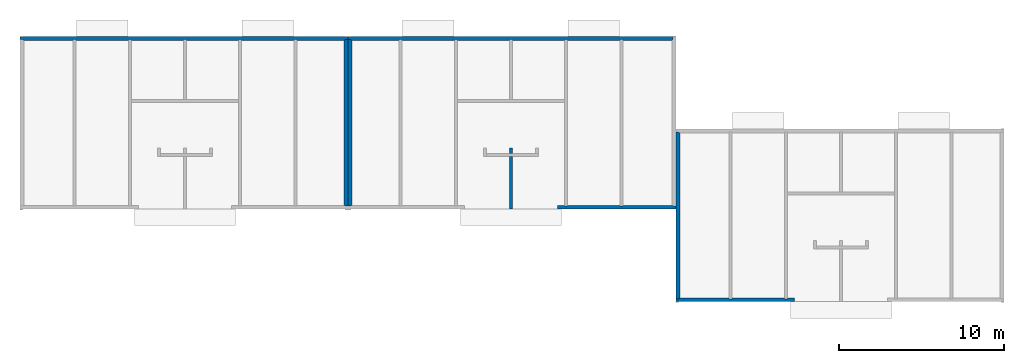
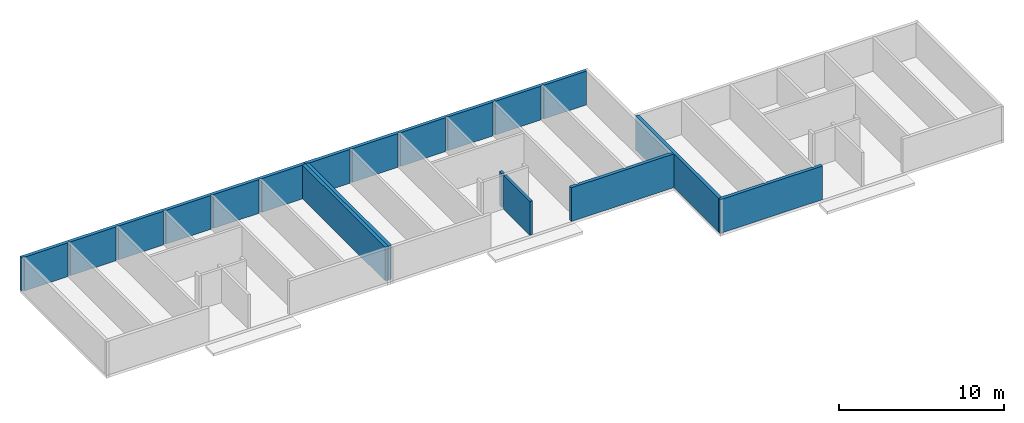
# One storey, part 9 of 10: 9 walls.
"""IFC2X3 building model written with IfcOpenShell, lengths in metres."""

import ifcopenshell
import ifcopenshell.guid

model = None  # the IFC model being written
_history = None  # IfcOwnerHistory: only IFC2X3 demands one
_inside = {}  # id of a spatial element -> (the spatial element, [elements in it])
_under = {}  # id of a project, library or spatial element -> (it, [spatial elements below it])
_declared = {}  # id of a project -> (the project, [libraries it declares])
_typed = {}  # id of a type object -> (the type object, [elements of that type])
_made_of = {}  # id of a material, layer set ... -> (it, [elements and type objects made of it])


def new_model(schema):
    """Start an empty IFC model of exactly this schema.

    Asked for "IFC4X3", IfcOpenShell would pick the latest addendum, in which some entities
    have other attributes; the version numbers below select the first issue.
    IFC2X3 requires an IfcOwnerHistory on every rooted entity: one is made here for all.
    """
    global model, _history
    if schema == "IFC4X3":
        model = ifcopenshell.file(schema_version=(4, 3, 0, 0))
    else:
        model = ifcopenshell.file(schema=schema)
    _inside.clear()
    _under.clear()
    _declared.clear()
    _typed.clear()
    _made_of.clear()
    _history = None
    if model.schema == "IFC2X3":
        org = make("IfcOrganization", Name="unknown")
        user = make(
            "IfcPersonAndOrganization",
            ThePerson=make("IfcPerson", FamilyName="unknown"),
            TheOrganization=org,
        )
        app = make(
            "IfcApplication",
            ApplicationDeveloper=org,
            Version="unknown",
            ApplicationFullName="unknown",
            ApplicationIdentifier="unknown",
        )
        _history = make(
            "IfcOwnerHistory",
            OwningUser=user,
            OwningApplication=app,
            ChangeAction="ADDED",
            CreationDate=0,
        )
    return model


def make(cls, **values):
    """One entity of the class cls with the attributes given. An attribute that is None is left unset."""
    return model.create_entity(
        cls, **{name: value for name, value in values.items() if value is not None}
    )


def rooted(cls, **values):
    """An entity with a GlobalId (a new one), such as an element, a storey or a relation."""
    return make(cls, GlobalId=ifcopenshell.guid.new(), OwnerHistory=_history, **values)


def si_unit(unit_type, name, prefix=None):
    """IfcSIUnit, for example si_unit("LENGTHUNIT", "METRE", prefix="MILLI")."""
    return make("IfcSIUnit", UnitType=unit_type, Prefix=prefix, Name=name)


def assignment(units):
    """IfcUnitAssignment: the units of a project."""
    return None if units is None else make("IfcUnitAssignment", Units=units)


def point(xyz):
    """IfcCartesianPoint."""
    return None if xyz is None else make("IfcCartesianPoint", Coordinates=xyz)


def direction(xyz):
    """IfcDirection."""
    return None if xyz is None else make("IfcDirection", DirectionRatios=xyz)


def frame(location, z_axis=None, x_axis=None):
    """IfcAxis2Placement3D, a coordinate frame: its origin and axes. An axis left out is left unset."""
    return make(
        "IfcAxis2Placement3D",
        Location=point(location),
        Axis=direction(z_axis),
        RefDirection=direction(x_axis),
    )


def origin():
    """The frame at (0, 0, 0) with its axes left unset."""
    return frame((0.0, 0.0, 0.0))


def place(relative_to, where):
    """IfcLocalPlacement: puts the frame where relative to a parent placement (None: the world)."""
    return make(
        "IfcLocalPlacement", PlacementRelTo=relative_to, RelativePlacement=where
    )


def context(
    kind, dimensions, precision=None, world=None, true_north=None, identifier=None
):
    """IfcGeometricRepresentationContext, for example the 3D "Model" context."""
    return make(
        "IfcGeometricRepresentationContext",
        ContextIdentifier=identifier,
        ContextType=kind,
        CoordinateSpaceDimension=dimensions,
        Precision=precision,
        WorldCoordinateSystem=world,
        TrueNorth=true_north,
    )


def project(units=None, contexts=None):
    """IfcProject with its units and contexts."""
    return rooted(
        "IfcProject",
        Name="project",
        RepresentationContexts=contexts,
        UnitsInContext=assignment(units),
    )


def spatial(cls, under=None, at=None, **own):
    """A site, building, storey or space (cls), placed at a placement, below another one or the project."""
    s = rooted(cls, ObjectPlacement=at, **own)
    if under is not None:
        _under.setdefault(under.id(), (under, []))[1].append(s)
    return s


def faces_of(points, faces, orient=None, outer=None):
    """IfcFace entities. A face is a list of loops; a loop is a list of indices into points, from 0.

    orient and outer hold one flag for each loop. By default every Orientation is true, the
    first loop of a face is its IfcFaceOuterBound and the others are IfcFaceBound.
    """
    made = []
    for i, loops in enumerate(faces):
        bounds = []
        for j, loop in enumerate(loops):
            is_outer = j == 0 if outer is None else outer[i][j]
            bounds.append(
                make(
                    "IfcFaceOuterBound" if is_outer else "IfcFaceBound",
                    Bound=make("IfcPolyLoop", Polygon=[points[k] for k in loop]),
                    Orientation=True if orient is None else orient[i][j],
                )
            )
        made.append(make("IfcFace", Bounds=bounds))
    return made


def faceted_brep(points, faces, orient=None, outer=None, voids=None):
    """IfcFacetedBrep: a solid bounded by flat faces; with voids (closed shells), ...WithVoids."""
    shared = [point(p) for p in points]
    hull = make("IfcClosedShell", CfsFaces=faces_of(shared, faces, orient, outer))
    if voids is None:
        return make("IfcFacetedBrep", Outer=hull)
    return make(
        "IfcFacetedBrepWithVoids",
        Outer=hull,
        Voids=[
            make(cls, CfsFaces=faces_of(shared, fs, o, b)) for cls, fs, o, b in voids
        ],
    )


def shape(context_of_items, identifier, shape_type, items):
    """IfcShapeRepresentation: the items that make up one representation, for example the "Body"."""
    return make(
        "IfcShapeRepresentation",
        ContextOfItems=context_of_items,
        RepresentationIdentifier=identifier,
        RepresentationType=shape_type,
        Items=items,
    )


def made_of(thing, what):
    """Note that an element or type object is made of a material, layer set ...; save() writes the relation."""
    if what is not None:
        _made_of.setdefault(what.id(), (what, []))[1].append(thing)
    return thing


def element(
    cls,
    number,
    at=None,
    inside=None,
    cuts=None,
    type_object=None,
    material=None,
    context=None,
    identifier="Body",
    shape_type=None,
    held_by="IfcProductDefinitionShape",
    body=None,
    shapes=None,
    **own,
):
    """One element of the class cls, such as IfcWall. Its Tag is "e" and its number.

    at: its placement. inside: the storey or other place that contains it. cuts: it is an
    opening in that element (IfcRelVoidsElement). A single representation is given by context,
    identifier, shape_type and body (its items); several are given by shapes. held_by: the class
    of the entity that holds the representations. save() writes the other relations.
    """
    e = rooted(cls, Tag="e%d" % number, ObjectPlacement=at, **own)
    if body is not None:
        shapes = [shape(context, identifier, shape_type, body)]
    if shapes is not None:
        e.Representation = make(held_by, Representations=shapes)
    if inside is not None:
        _inside.setdefault(inside.id(), (inside, []))[1].append(e)
    if cuts is not None:
        rooted(
            "IfcRelVoidsElement", RelatingBuildingElement=cuts, RelatedOpeningElement=e
        )
    if type_object is not None:
        _typed.setdefault(type_object.id(), (type_object, []))[1].append(e)
    return made_of(e, material)


def aggregate(whole, parts):
    """IfcRelAggregates: a whole, such as a stair, and the parts it consists of."""
    return rooted("IfcRelAggregates", RelatingObject=whole, RelatedObjects=parts)


def save(model, path):
    """Write the relations noted so far, then the file.

    IfcRelAggregates (storeys below a building ...), IfcRelContainedInSpatialStructure (elements
    in a storey), IfcRelDefinesByType, IfcRelAssociatesMaterial and IfcRelDeclares: one each for
    every whole, place, type object, material and project.
    """
    for whole, parts in _under.values():
        aggregate(whole, parts)
    for where, things in _inside.values():
        rooted(
            "IfcRelContainedInSpatialStructure",
            RelatedElements=things,
            RelatingStructure=where,
        )
    for kind, things in _typed.values():
        rooted("IfcRelDefinesByType", RelatedObjects=things, RelatingType=kind)
    for what, things in _made_of.values():
        rooted("IfcRelAssociatesMaterial", RelatedObjects=things, RelatingMaterial=what)
    for by, libraries in _declared.values():
        rooted("IfcRelDeclares", RelatingContext=by, RelatedDefinitions=libraries)
    model.write(path)


model = new_model("IFC2X3")

# Units and contexts
model_context = context("Model", 3, precision=1e-06, world=origin())
ifc_project = project(units=[si_unit("LENGTHUNIT", "METRE"), si_unit("PLANEANGLEUNIT", "RADIAN")], contexts=[model_context])

# Site, building, storey
site = spatial("IfcSite", under=ifc_project, CompositionType="ELEMENT")
building = spatial("IfcBuilding", under=site, CompositionType="ELEMENT")
storey = spatial("IfcBuildingStorey", under=building, Name="r+1", CompositionType="ELEMENT", Elevation=2.7)

# Walls
placement = place(None, origin())
wall_1_placement = place(placement, frame((39.51999999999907, 10.470077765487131, 2.7), z_axis=(0.0, 0.0, 1.0), x_axis=(-1.0, 0.0, 0.0)))
element("IfcWall", 1, at=wall_1_placement, inside=storey, context=model_context, shape_type="Brep", body=[
    faceted_brep([(19.44999999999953, 0.23, 2.5), (19.44999999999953, 0.22, 2.5), (19.44999999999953, 0.22, 0.0), (19.44999999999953, 0.23, 0.0), (19.44999999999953, 0.22, 2.5), (19.48999999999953, 0.22, 2.5), (19.48999999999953, 0.22, 0.0), (19.44999999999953, 0.22, 0.0), (19.48999999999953, 0.22, 2.5), (19.48999999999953, 0.18, 2.5), (19.48999999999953, 0.18, 0.0), (19.48999999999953, 0.22, 0.0), (19.48999999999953, 0.18, 2.5), (19.669999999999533, 0.18, 2.5), (19.669999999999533, 0.18, 0.0), (19.48999999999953, 0.18, 0.0), (19.669999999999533, 0.18, 2.5), (19.669999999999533, 0.0, 2.5), (19.669999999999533, 0.0, 0.0), (19.669999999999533, 0.18, 0.0), (19.669999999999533, 0.0, 2.5), (0.0, 0.0, 2.5), (0.0, 0.0, 0.0), (19.669999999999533, 0.0, 0.0), (0.0, 0.0, 2.5), (0.0, 0.18, 2.5), (0.0, 0.18, 0.0), (0.0, 0.0, 0.0), (0.0, 0.18, 2.5), (0.04, 0.18, 2.5), (0.04, 0.18, 0.0), (0.0, 0.18, 0.0), (0.04, 0.18, 2.5), (0.04, 0.22, 2.5), (0.04, 0.22, 0.0), (0.04, 0.18, 0.0), (0.04, 0.22, 2.5), (0.05, 0.22, 2.5), (0.05, 0.22, 0.0), (0.04, 0.22, 0.0), (0.05, 0.22, 2.5), (0.05, 0.23, 2.5), (0.05, 0.23, 0.0), (0.05, 0.22, 0.0), (0.05, 0.23, 2.5), (3.019999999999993, 0.23, 2.5), (3.019999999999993, 0.23, 0.0), (0.05, 0.23, 0.0), (3.019999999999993, 0.23, 2.5), (3.019999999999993, 0.18, 2.5), (3.019999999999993, 0.18, 0.0), (3.019999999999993, 0.23, 0.0), (3.019999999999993, 0.18, 2.5), (3.199999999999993, 0.18, 2.5), (3.199999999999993, 0.18, 0.0), (3.019999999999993, 0.18, 0.0), (3.199999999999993, 0.18, 2.5), (3.199999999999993, 0.23, 2.5), (3.199999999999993, 0.23, 0.0), (3.199999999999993, 0.18, 0.0), (3.199999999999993, 0.23, 2.5), (6.4, 0.229999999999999, 2.5), (6.4, 0.229999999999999, 0.0), (3.199999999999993, 0.23, 0.0), (6.4, 0.229999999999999, 2.5), (6.4, 0.180000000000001, 2.5), (6.4, 0.180000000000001, 0.0), (6.4, 0.229999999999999, 0.0), (6.4, 0.180000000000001, 2.5), (6.58, 0.180000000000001, 2.5), (6.58, 0.180000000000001, 0.0), (6.4, 0.180000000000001, 0.0), (6.58, 0.180000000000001, 2.5), (6.58, 0.229999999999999, 2.5), (6.58, 0.229999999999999, 0.0), (6.58, 0.180000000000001, 0.0), (6.58, 0.229999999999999, 2.5), (9.714999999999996, 0.229999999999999, 2.5), (9.714999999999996, 0.229999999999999, 0.0), (6.58, 0.229999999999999, 0.0), (9.714999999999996, 0.229999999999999, 2.5), (9.714999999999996, 0.179999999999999, 2.5), (9.714999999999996, 0.179999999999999, 0.0), (9.714999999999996, 0.229999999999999, 0.0), (9.714999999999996, 0.179999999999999, 2.5), (9.894999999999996, 0.179999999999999, 2.5), (9.894999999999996, 0.179999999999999, 0.0), (9.714999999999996, 0.179999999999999, 0.0), (9.894999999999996, 0.179999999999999, 2.5), (9.894999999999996, 0.229999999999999, 2.5), (9.894999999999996, 0.229999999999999, 0.0), (9.894999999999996, 0.179999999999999, 0.0), (9.894999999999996, 0.229999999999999, 2.5), (13.029999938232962, 0.229999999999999, 2.5), (13.029999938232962, 0.229999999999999, 0.0), (9.894999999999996, 0.229999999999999, 0.0), (13.029999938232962, 0.229999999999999, 2.5), (13.029999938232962, 0.179999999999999, 2.5), (13.029999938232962, 0.179999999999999, 0.0), (13.029999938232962, 0.229999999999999, 0.0), (13.029999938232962, 0.179999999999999, 2.5), (13.209999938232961, 0.179999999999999, 2.5), (13.209999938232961, 0.179999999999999, 0.0), (13.029999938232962, 0.179999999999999, 0.0), (13.209999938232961, 0.179999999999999, 2.5), (13.209999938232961, 0.229999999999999, 2.5), (13.209999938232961, 0.229999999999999, 0.0), (13.209999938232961, 0.179999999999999, 0.0), (13.209999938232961, 0.229999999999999, 2.5), (16.41000000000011, 0.23, 2.5), (16.41000000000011, 0.23, 0.0), (13.209999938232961, 0.229999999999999, 0.0), (16.41000000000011, 0.23, 2.5), (16.41000000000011, 0.18, 2.5), (16.41000000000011, 0.18, 0.0), (16.41000000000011, 0.23, 0.0), (16.41000000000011, 0.18, 2.5), (16.59000000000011, 0.18, 2.5), (16.59000000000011, 0.18, 0.0), (16.41000000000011, 0.18, 0.0), (16.59000000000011, 0.18, 2.5), (16.59000000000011, 0.23, 2.5), (16.59000000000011, 0.23, 0.0), (16.59000000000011, 0.18, 0.0), (16.59000000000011, 0.23, 2.5), (19.44999999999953, 0.23, 2.5), (19.44999999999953, 0.23, 0.0), (16.59000000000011, 0.23, 0.0), (19.44999999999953, 0.23, 2.5), (16.59000000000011, 0.23, 2.5), (16.59000000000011, 0.18, 2.5), (16.41000000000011, 0.18, 2.5), (16.41000000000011, 0.23, 2.5), (13.209999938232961, 0.229999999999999, 2.5), (13.209999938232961, 0.179999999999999, 2.5), (13.029999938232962, 0.179999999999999, 2.5), (13.029999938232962, 0.229999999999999, 2.5), (9.894999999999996, 0.229999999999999, 2.5), (9.894999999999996, 0.179999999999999, 2.5), (9.714999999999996, 0.179999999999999, 2.5), (9.714999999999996, 0.229999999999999, 2.5), (6.58, 0.229999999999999, 2.5), (6.58, 0.180000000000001, 2.5), (6.4, 0.180000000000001, 2.5), (6.4, 0.229999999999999, 2.5), (3.199999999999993, 0.23, 2.5), (3.199999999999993, 0.18, 2.5), (3.019999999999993, 0.18, 2.5), (3.019999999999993, 0.23, 2.5), (0.05, 0.23, 2.5), (0.05, 0.22, 2.5), (0.04, 0.22, 2.5), (0.04, 0.18, 2.5), (0.0, 0.18, 2.5), (0.0, 0.0, 2.5), (19.669999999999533, 0.0, 2.5), (19.669999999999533, 0.18, 2.5), (19.48999999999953, 0.18, 2.5), (19.48999999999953, 0.22, 2.5), (19.44999999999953, 0.22, 2.5), (19.44999999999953, 0.23, 0.0), (19.44999999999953, 0.22, 0.0), (19.48999999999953, 0.22, 0.0), (19.48999999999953, 0.18, 0.0), (19.669999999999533, 0.18, 0.0), (19.669999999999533, 0.0, 0.0), (0.0, 0.0, 0.0), (0.0, 0.18, 0.0), (0.04, 0.18, 0.0), (0.04, 0.22, 0.0), (0.05, 0.22, 0.0), (0.05, 0.23, 0.0), (3.019999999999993, 0.23, 0.0), (3.019999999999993, 0.18, 0.0), (3.199999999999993, 0.18, 0.0), (3.199999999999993, 0.23, 0.0), (6.4, 0.229999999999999, 0.0), (6.4, 0.180000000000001, 0.0), (6.58, 0.180000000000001, 0.0), (6.58, 0.229999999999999, 0.0), (9.714999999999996, 0.229999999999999, 0.0), (9.714999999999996, 0.179999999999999, 0.0), (9.894999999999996, 0.179999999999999, 0.0), (9.894999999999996, 0.229999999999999, 0.0), (13.029999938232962, 0.229999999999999, 0.0), (13.029999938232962, 0.179999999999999, 0.0), (13.209999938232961, 0.179999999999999, 0.0), (13.209999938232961, 0.229999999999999, 0.0), (16.41000000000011, 0.23, 0.0), (16.41000000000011, 0.18, 0.0), (16.59000000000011, 0.18, 0.0), (16.59000000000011, 0.23, 0.0)], [[[0, 1, 2, 3]], [[4, 5, 6, 7]], [[8, 9, 10, 11]], [[12, 13, 14, 15]], [[16, 17, 18, 19]], [[20, 21, 22, 23]], [[24, 25, 26, 27]], [[28, 29, 30, 31]], [[32, 33, 34, 35]], [[36, 37, 38, 39]], [[40, 41, 42, 43]], [[44, 45, 46, 47]], [[48, 49, 50, 51]], [[52, 53, 54, 55]], [[56, 57, 58, 59]], [[60, 61, 62, 63]], [[64, 65, 66, 67]], [[68, 69, 70, 71]], [[72, 73, 74, 75]], [[76, 77, 78, 79]], [[80, 81, 82, 83]], [[84, 85, 86, 87]], [[88, 89, 90, 91]], [[92, 93, 94, 95]], [[96, 97, 98, 99]], [[100, 101, 102, 103]], [[104, 105, 106, 107]], [[108, 109, 110, 111]], [[112, 113, 114, 115]], [[116, 117, 118, 119]], [[120, 121, 122, 123]], [[124, 125, 126, 127]], [[128, 129, 130, 131, 132, 133, 134, 135, 136, 137, 138, 139, 140, 141, 142, 143, 144, 145, 146, 147, 148, 149, 150, 151, 152, 153, 154, 155, 156, 157, 158, 159]], [[160, 161, 162, 163, 164, 165, 166, 167, 168, 169, 170, 171, 172, 173, 174, 175, 176, 177, 178, 179, 180, 181, 182, 183, 184, 185, 186, 187, 188, 189, 190, 191]]]),
])
wall_2_placement = place(placement, frame((29.80499999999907, 0.020038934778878, 2.7), z_axis=(0.0, 0.0, 1.0), x_axis=(0.0, 1.0, 0.0)))
element("IfcWall", 2, at=wall_2_placement, inside=storey, context=model_context, shape_type="Brep", body=[
    faceted_brep([(3.700038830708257, 0.18, 2.5), (3.700038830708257, 0.0, 2.5), (3.700038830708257, 0.0, 0.0), (3.700038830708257, 0.18, 0.0), (3.700038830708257, 0.0, 2.5), (3.380038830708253, 0.0, 2.5), (3.380038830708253, 0.0, 0.0), (3.700038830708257, 0.0, 0.0), (3.380038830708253, 0.0, 2.5), (3.380038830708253, 0.18, 2.5), (3.380038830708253, 0.18, 0.0), (3.380038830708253, 0.0, 0.0), (3.380038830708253, 0.18, 2.5), (3.700038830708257, 0.18, 2.5), (3.700038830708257, 0.18, 0.0), (3.380038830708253, 0.18, 0.0), (3.700038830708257, 0.18, 2.5), (3.380038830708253, 0.18, 2.5), (3.380038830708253, 0.0, 2.5), (3.700038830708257, 0.0, 2.5), (3.700038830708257, 0.18, 0.0), (3.700038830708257, 0.0, 0.0), (3.380038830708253, 0.0, 0.0), (3.380038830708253, 0.18, 0.0)], [[[0, 1, 2, 3]], [[4, 5, 6, 7]], [[8, 9, 10, 11]], [[12, 13, 14, 15]], [[16, 17, 18, 19]], [[20, 21, 22, 23]]]),
])
wall_3_placement = place(placement, frame((19.849999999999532, 0.20016279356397, 2.7), z_axis=(0.0, 0.0, 1.0), x_axis=(0.0, 1.0, 0.0)))
element("IfcWall", 3, at=wall_3_placement, inside=storey, context=model_context, shape_type="Brep", body=[
    faceted_brep([(0.04, 0.18, 2.5), (0.04, 0.22, 2.5), (0.04, 0.22, 0.0), (0.04, 0.18, 0.0), (0.04, 0.22, 2.5), (0.05, 0.22, 2.5), (0.05, 0.22, 0.0), (0.04, 0.22, 0.0), (0.05, 0.22, 2.5), (0.05, 0.23, 2.5), (0.05, 0.23, 0.0), (0.05, 0.22, 0.0), (0.05, 0.23, 2.5), (10.03991497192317, 0.23, 2.5), (10.03991497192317, 0.23, 0.0), (0.05, 0.23, 0.0), (10.03991497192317, 0.23, 2.5), (10.03991497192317, 0.22, 2.5), (10.03991497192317, 0.22, 0.0), (10.03991497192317, 0.23, 0.0), (10.03991497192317, 0.22, 2.5), (10.04991497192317, 0.22, 2.5), (10.04991497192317, 0.22, 0.0), (10.03991497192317, 0.22, 0.0), (10.04991497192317, 0.22, 2.5), (10.04991497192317, 0.18, 2.5), (10.04991497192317, 0.18, 0.0), (10.04991497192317, 0.22, 0.0), (10.04991497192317, 0.18, 2.5), (10.08991497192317, 0.18, 2.5), (10.08991497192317, 0.18, 0.0), (10.04991497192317, 0.18, 0.0), (10.08991497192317, 0.18, 2.5), (10.08991497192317, 0.0, 2.5), (10.08991497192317, 0.0, 0.0), (10.08991497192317, 0.18, 0.0), (10.08991497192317, 0.0, 2.5), (0.0, 0.0, 2.5), (0.0, 0.0, 0.0), (10.08991497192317, 0.0, 0.0), (0.0, 0.0, 2.5), (0.0, 0.18, 2.5), (0.0, 0.18, 0.0), (0.0, 0.0, 0.0), (0.0, 0.18, 2.5), (0.04, 0.18, 2.5), (0.04, 0.18, 0.0), (0.0, 0.18, 0.0), (0.04, 0.18, 2.5), (0.0, 0.18, 2.5), (0.0, 0.0, 2.5), (10.08991497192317, 0.0, 2.5), (10.08991497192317, 0.18, 2.5), (10.04991497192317, 0.18, 2.5), (10.04991497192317, 0.22, 2.5), (10.03991497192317, 0.22, 2.5), (10.03991497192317, 0.23, 2.5), (0.05, 0.23, 2.5), (0.05, 0.22, 2.5), (0.04, 0.22, 2.5), (0.04, 0.18, 0.0), (0.04, 0.22, 0.0), (0.05, 0.22, 0.0), (0.05, 0.23, 0.0), (10.03991497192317, 0.23, 0.0), (10.03991497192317, 0.22, 0.0), (10.04991497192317, 0.22, 0.0), (10.04991497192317, 0.18, 0.0), (10.08991497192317, 0.18, 0.0), (10.08991497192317, 0.0, 0.0), (0.0, 0.0, 0.0), (0.0, 0.18, 0.0)], [[[0, 1, 2, 3]], [[4, 5, 6, 7]], [[8, 9, 10, 11]], [[12, 13, 14, 15]], [[16, 17, 18, 19]], [[20, 21, 22, 23]], [[24, 25, 26, 27]], [[28, 29, 30, 31]], [[32, 33, 34, 35]], [[36, 37, 38, 39]], [[40, 41, 42, 43]], [[44, 45, 46, 47]], [[48, 49, 50, 51, 52, 53, 54, 55, 56, 57, 58, 59]], [[60, 61, 62, 63, 64, 65, 66, 67, 68, 69, 70, 71]]]),
])
wall_4_placement = place(placement, frame((32.52499999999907, 0.020077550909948, 2.7), z_axis=(0.0, 0.0, 1.0), x_axis=(1.0, 0.0, 0.0)))
element("IfcWall", 4, at=wall_4_placement, inside=storey, context=model_context, shape_type="Brep", body=[
    faceted_brep([(0.414999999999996, 0.23, 2.5), (0.414999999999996, 0.18, 2.5), (0.414999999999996, 0.18, 0.0), (0.414999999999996, 0.23, 0.0), (0.414999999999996, 0.18, 2.5), (0.594999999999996, 0.18, 2.5), (0.594999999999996, 0.18, 0.0), (0.414999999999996, 0.18, 0.0), (0.594999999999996, 0.18, 2.5), (0.594999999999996, 0.23, 2.5), (0.594999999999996, 0.23, 0.0), (0.594999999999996, 0.18, 0.0), (0.594999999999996, 0.23, 2.5), (3.795000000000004, 0.23, 2.5), (3.795000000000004, 0.23, 0.0), (0.594999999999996, 0.23, 0.0), (3.795000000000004, 0.23, 2.5), (3.795000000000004, 0.18, 2.5), (3.795000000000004, 0.18, 0.0), (3.795000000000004, 0.23, 0.0), (3.795000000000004, 0.18, 2.5), (3.975000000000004, 0.18, 2.5), (3.975000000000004, 0.18, 0.0), (3.795000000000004, 0.18, 0.0), (3.975000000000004, 0.18, 2.5), (3.975000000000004, 0.23, 2.5), (3.975000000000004, 0.23, 0.0), (3.975000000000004, 0.18, 0.0), (3.975000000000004, 0.23, 2.5), (6.954999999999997, 0.23, 2.5), (6.954999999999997, 0.23, 0.0), (3.975000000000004, 0.23, 0.0), (6.954999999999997, 0.23, 2.5), (6.954999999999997, 0.22, 2.5), (6.954999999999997, 0.22, 0.0), (6.954999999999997, 0.23, 0.0), (6.954999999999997, 0.22, 2.5), (6.994999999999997, 0.22, 2.5), (6.994999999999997, 0.22, 0.0), (6.954999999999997, 0.22, 0.0), (6.994999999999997, 0.22, 2.5), (6.994999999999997, 0.18, 2.5), (6.994999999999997, 0.18, 0.0), (6.994999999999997, 0.22, 0.0), (6.994999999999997, 0.18, 2.5), (7.174999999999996, 0.18, 2.5), (7.174999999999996, 0.18, 0.0), (6.994999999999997, 0.18, 0.0), (7.174999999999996, 0.18, 2.5), (7.174999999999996, 0.0, 2.5), (7.174999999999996, 0.0, 0.0), (7.174999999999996, 0.18, 0.0), (7.174999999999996, 0.0, 2.5), (0.0, 0.0, 2.5), (0.0, 0.0, 0.0), (7.174999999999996, 0.0, 0.0), (0.0, 0.0, 2.5), (0.0, 0.23, 2.5), (0.0, 0.23, 0.0), (0.0, 0.0, 0.0), (0.0, 0.23, 2.5), (0.414999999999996, 0.23, 2.5), (0.414999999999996, 0.23, 0.0), (0.0, 0.23, 0.0), (0.414999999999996, 0.23, 2.5), (0.0, 0.23, 2.5), (0.0, 0.0, 2.5), (7.174999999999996, 0.0, 2.5), (7.174999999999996, 0.18, 2.5), (6.994999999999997, 0.18, 2.5), (6.994999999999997, 0.22, 2.5), (6.954999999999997, 0.22, 2.5), (6.954999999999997, 0.23, 2.5), (3.975000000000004, 0.23, 2.5), (3.975000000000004, 0.18, 2.5), (3.795000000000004, 0.18, 2.5), (3.795000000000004, 0.23, 2.5), (0.594999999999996, 0.23, 2.5), (0.594999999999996, 0.18, 2.5), (0.414999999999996, 0.18, 2.5), (0.414999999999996, 0.23, 0.0), (0.414999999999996, 0.18, 0.0), (0.594999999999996, 0.18, 0.0), (0.594999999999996, 0.23, 0.0), (3.795000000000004, 0.23, 0.0), (3.795000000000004, 0.18, 0.0), (3.975000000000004, 0.18, 0.0), (3.975000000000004, 0.23, 0.0), (6.954999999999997, 0.23, 0.0), (6.954999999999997, 0.22, 0.0), (6.994999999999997, 0.22, 0.0), (6.994999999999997, 0.18, 0.0), (7.174999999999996, 0.18, 0.0), (7.174999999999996, 0.0, 0.0), (0.0, 0.0, 0.0), (0.0, 0.23, 0.0)], [[[0, 1, 2, 3]], [[4, 5, 6, 7]], [[8, 9, 10, 11]], [[12, 13, 14, 15]], [[16, 17, 18, 19]], [[20, 21, 22, 23]], [[24, 25, 26, 27]], [[28, 29, 30, 31]], [[32, 33, 34, 35]], [[36, 37, 38, 39]], [[40, 41, 42, 43]], [[44, 45, 46, 47]], [[48, 49, 50, 51]], [[52, 53, 54, 55]], [[56, 57, 58, 59]], [[60, 61, 62, 63]], [[64, 65, 66, 67, 68, 69, 70, 71, 72, 73, 74, 75, 76, 77, 78, 79]], [[80, 81, 82, 83, 84, 85, 86, 87, 88, 89, 90, 91, 92, 93, 94, 95]]]),
])
wall_5_placement = place(placement, frame((19.849999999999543, 10.290077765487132, 2.7), z_axis=(0.0, 0.0, 1.0), x_axis=(0.0, -1.0, 0.0)))
element("IfcWall", 5, at=wall_5_placement, inside=storey, context=model_context, shape_type="Brep", body=[
    faceted_brep([(0.04, 0.18, 2.5), (0.04, 0.22, 2.5), (0.04, 0.22, 0.0), (0.04, 0.18, 0.0), (0.04, 0.22, 2.5), (0.05, 0.22, 2.5), (0.05, 0.22, 0.0), (0.04, 0.22, 0.0), (0.05, 0.22, 2.5), (0.05, 0.23, 2.5), (0.05, 0.23, 0.0), (0.05, 0.22, 0.0), (0.05, 0.23, 2.5), (10.03991497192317, 0.23, 2.5), (10.03991497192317, 0.23, 0.0), (0.05, 0.23, 0.0), (10.03991497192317, 0.23, 2.5), (10.03991497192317, 0.22, 2.5), (10.03991497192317, 0.22, 0.0), (10.03991497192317, 0.23, 0.0), (10.03991497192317, 0.22, 2.5), (10.04991497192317, 0.22, 2.5), (10.04991497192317, 0.22, 0.0), (10.03991497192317, 0.22, 0.0), (10.04991497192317, 0.22, 2.5), (10.04991497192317, 0.18, 2.5), (10.04991497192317, 0.18, 0.0), (10.04991497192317, 0.22, 0.0), (10.04991497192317, 0.18, 2.5), (10.08991497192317, 0.18, 2.5), (10.08991497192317, 0.18, 0.0), (10.04991497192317, 0.18, 0.0), (10.08991497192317, 0.18, 2.5), (10.08991497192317, 0.0, 2.5), (10.08991497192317, 0.0, 0.0), (10.08991497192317, 0.18, 0.0), (10.08991497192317, 0.0, 2.5), (0.0, 0.0, 2.5), (0.0, 0.0, 0.0), (10.08991497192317, 0.0, 0.0), (0.0, 0.0, 2.5), (0.0, 0.18, 2.5), (0.0, 0.18, 0.0), (0.0, 0.0, 0.0), (0.0, 0.18, 2.5), (0.04, 0.18, 2.5), (0.04, 0.18, 0.0), (0.0, 0.18, 0.0), (0.04, 0.18, 2.5), (0.0, 0.18, 2.5), (0.0, 0.0, 2.5), (10.08991497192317, 0.0, 2.5), (10.08991497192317, 0.18, 2.5), (10.04991497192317, 0.18, 2.5), (10.04991497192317, 0.22, 2.5), (10.03991497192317, 0.22, 2.5), (10.03991497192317, 0.23, 2.5), (0.05, 0.23, 2.5), (0.05, 0.22, 2.5), (0.04, 0.22, 2.5), (0.04, 0.18, 0.0), (0.04, 0.22, 0.0), (0.05, 0.22, 0.0), (0.05, 0.23, 0.0), (10.03991497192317, 0.23, 0.0), (10.03991497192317, 0.22, 0.0), (10.04991497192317, 0.22, 0.0), (10.04991497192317, 0.18, 0.0), (10.08991497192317, 0.18, 0.0), (10.08991497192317, 0.0, 0.0), (0.0, 0.0, 0.0), (0.0, 0.18, 0.0)], [[[0, 1, 2, 3]], [[4, 5, 6, 7]], [[8, 9, 10, 11]], [[12, 13, 14, 15]], [[16, 17, 18, 19]], [[20, 21, 22, 23]], [[24, 25, 26, 27]], [[28, 29, 30, 31]], [[32, 33, 34, 35]], [[36, 37, 38, 39]], [[40, 41, 42, 43]], [[44, 45, 46, 47]], [[48, 49, 50, 51, 52, 53, 54, 55, 56, 57, 58, 59]], [[60, 61, 62, 63, 64, 65, 66, 67, 68, 69, 70, 71]]]),
])
wall_6_placement = place(placement, frame((29.80499999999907, 0.020038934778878, 2.7), z_axis=(0.0, 0.0, 1.0), x_axis=(0.0, 1.0, 0.0)))
element("IfcWall", 6, at=wall_6_placement, inside=storey, context=model_context, shape_type="Brep", body=[
    faceted_brep([(3.200038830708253, 0.18, 2.5), (3.200038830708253, 0.0, 2.5), (3.200038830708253, 0.0, 0.0), (3.200038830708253, 0.18, 0.0), (3.200038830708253, 0.0, 2.5), (0.0, 0.0, 2.5), (0.0, 0.0, 0.0), (3.200038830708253, 0.0, 0.0), (0.0, 0.0, 2.5), (-7.16957565e-07, 0.18, 2.5), (-7.16957565e-07, 0.18, 0.0), (0.0, 0.0, 0.0), (-7.16957565e-07, 0.18, 2.5), (3.200038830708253, 0.18, 2.5), (3.200038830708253, 0.18, 0.0), (-7.16957565e-07, 0.18, 0.0), (3.200038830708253, 0.18, 2.5), (-7.16957565e-07, 0.18, 2.5), (0.0, 0.0, 2.5), (3.200038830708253, 0.0, 2.5), (3.200038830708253, 0.18, 0.0), (3.200038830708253, 0.0, 0.0), (0.0, 0.0, 0.0), (-7.16957565e-07, 0.18, 0.0)], [[[0, 1, 2, 3]], [[4, 5, 6, 7]], [[8, 9, 10, 11]], [[12, 13, 14, 15]], [[16, 17, 18, 19]], [[20, 21, 22, 23]]]),
])
wall_7_placement = place(placement, frame((19.849999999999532, 10.47007776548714, 2.7), z_axis=(0.0, 0.0, 1.0), x_axis=(-1.0, 0.0, 0.0)))
element("IfcWall", 7, at=wall_7_placement, inside=storey, context=model_context, shape_type="Brep", body=[
    faceted_brep([(19.62999999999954, 0.23, 2.5), (19.62999999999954, 0.22, 2.5), (19.62999999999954, 0.22, 0.0), (19.62999999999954, 0.23, 0.0), (19.62999999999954, 0.22, 2.5), (19.669999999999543, 0.22, 2.5), (19.669999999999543, 0.22, 0.0), (19.62999999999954, 0.22, 0.0), (19.669999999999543, 0.22, 2.5), (19.669999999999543, 0.18, 2.5), (19.669999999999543, 0.18, 0.0), (19.669999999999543, 0.22, 0.0), (19.669999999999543, 0.18, 2.5), (19.849999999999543, 0.18, 2.5), (19.849999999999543, 0.18, 0.0), (19.669999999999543, 0.18, 0.0), (19.849999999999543, 0.18, 2.5), (19.849999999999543, 0.0, 2.5), (19.849999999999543, 0.0, 0.0), (19.849999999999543, 0.18, 0.0), (19.849999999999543, 0.0, 2.5), (0.0, 0.0, 2.5), (0.0, 0.0, 0.0), (19.849999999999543, 0.0, 0.0), (0.0, 0.0, 2.5), (0.0, 0.18, 2.5), (0.0, 0.18, 0.0), (0.0, 0.0, 0.0), (0.0, 0.18, 2.5), (0.18, 0.18, 2.5), (0.18, 0.18, 0.0), (0.0, 0.18, 0.0), (0.18, 0.18, 2.5), (0.18, 0.22, 2.5), (0.18, 0.22, 0.0), (0.18, 0.18, 0.0), (0.18, 0.22, 2.5), (0.22, 0.22, 2.5), (0.22, 0.22, 0.0), (0.18, 0.22, 0.0), (0.22, 0.22, 2.5), (0.22, 0.23, 2.5), (0.22, 0.23, 0.0), (0.22, 0.22, 0.0), (0.22, 0.23, 2.5), (3.079999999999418, 0.23, 2.5), (3.079999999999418, 0.23, 0.0), (0.22, 0.23, 0.0), (3.079999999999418, 0.23, 2.5), (3.079999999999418, 0.18, 2.5), (3.079999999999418, 0.18, 0.0), (3.079999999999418, 0.23, 0.0), (3.079999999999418, 0.18, 2.5), (3.259999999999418, 0.18, 2.5), (3.259999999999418, 0.18, 0.0), (3.079999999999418, 0.18, 0.0), (3.259999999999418, 0.18, 2.5), (3.259999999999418, 0.23, 2.5), (3.259999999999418, 0.23, 0.0), (3.259999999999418, 0.18, 0.0), (3.259999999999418, 0.23, 2.5), (6.46000006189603, 0.230000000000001, 2.5), (6.46000006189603, 0.230000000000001, 0.0), (3.259999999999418, 0.23, 0.0), (6.46000006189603, 0.230000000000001, 2.5), (6.46000006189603, 0.180000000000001, 2.5), (6.46000006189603, 0.180000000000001, 0.0), (6.46000006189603, 0.230000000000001, 0.0), (6.46000006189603, 0.180000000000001, 2.5), (6.640000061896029, 0.180000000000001, 2.5), (6.640000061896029, 0.180000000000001, 0.0), (6.46000006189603, 0.180000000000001, 0.0), (6.640000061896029, 0.180000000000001, 2.5), (6.640000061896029, 0.230000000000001, 2.5), (6.640000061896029, 0.230000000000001, 0.0), (6.640000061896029, 0.180000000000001, 0.0), (6.640000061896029, 0.230000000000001, 2.5), (9.774999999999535, 0.230000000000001, 2.5), (9.774999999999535, 0.230000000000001, 0.0), (6.640000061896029, 0.230000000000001, 0.0), (9.774999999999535, 0.230000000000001, 2.5), (9.774999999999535, 0.180000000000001, 2.5), (9.774999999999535, 0.180000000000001, 0.0), (9.774999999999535, 0.230000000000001, 0.0), (9.774999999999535, 0.180000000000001, 2.5), (9.954999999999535, 0.180000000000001, 2.5), (9.954999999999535, 0.180000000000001, 0.0), (9.774999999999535, 0.180000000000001, 0.0), (9.954999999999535, 0.180000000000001, 2.5), (9.954999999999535, 0.230000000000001, 2.5), (9.954999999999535, 0.230000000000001, 0.0), (9.954999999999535, 0.180000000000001, 0.0), (9.954999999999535, 0.230000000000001, 2.5), (13.08999999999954, 0.229999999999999, 2.5), (13.08999999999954, 0.229999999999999, 0.0), (9.954999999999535, 0.230000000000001, 0.0), (13.08999999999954, 0.229999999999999, 2.5), (13.08999999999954, 0.179999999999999, 2.5), (13.08999999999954, 0.179999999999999, 0.0), (13.08999999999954, 0.229999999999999, 0.0), (13.08999999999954, 0.179999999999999, 2.5), (13.26999999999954, 0.179999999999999, 2.5), (13.26999999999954, 0.179999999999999, 0.0), (13.08999999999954, 0.179999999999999, 0.0), (13.26999999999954, 0.179999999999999, 2.5), (13.26999999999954, 0.229999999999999, 2.5), (13.26999999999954, 0.229999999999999, 0.0), (13.26999999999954, 0.179999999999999, 0.0), (13.26999999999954, 0.229999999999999, 2.5), (16.46999999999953, 0.23, 2.5), (16.46999999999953, 0.23, 0.0), (13.26999999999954, 0.229999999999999, 0.0), (16.46999999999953, 0.23, 2.5), (16.46999999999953, 0.18, 2.5), (16.46999999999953, 0.18, 0.0), (16.46999999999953, 0.23, 0.0), (16.46999999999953, 0.18, 2.5), (16.64999999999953, 0.18, 2.5), (16.64999999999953, 0.18, 0.0), (16.46999999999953, 0.18, 0.0), (16.64999999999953, 0.18, 2.5), (16.64999999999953, 0.23, 2.5), (16.64999999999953, 0.23, 0.0), (16.64999999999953, 0.18, 0.0), (16.64999999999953, 0.23, 2.5), (19.62999999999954, 0.23, 2.5), (19.62999999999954, 0.23, 0.0), (16.64999999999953, 0.23, 0.0), (19.62999999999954, 0.23, 2.5), (16.64999999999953, 0.23, 2.5), (16.64999999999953, 0.18, 2.5), (16.46999999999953, 0.18, 2.5), (16.46999999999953, 0.23, 2.5), (13.26999999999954, 0.229999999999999, 2.5), (13.26999999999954, 0.179999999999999, 2.5), (13.08999999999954, 0.179999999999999, 2.5), (13.08999999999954, 0.229999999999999, 2.5), (9.954999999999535, 0.230000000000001, 2.5), (9.954999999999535, 0.180000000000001, 2.5), (9.774999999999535, 0.180000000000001, 2.5), (9.774999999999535, 0.230000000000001, 2.5), (6.640000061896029, 0.230000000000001, 2.5), (6.640000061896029, 0.180000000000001, 2.5), (6.46000006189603, 0.180000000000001, 2.5), (6.46000006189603, 0.230000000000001, 2.5), (3.259999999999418, 0.23, 2.5), (3.259999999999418, 0.18, 2.5), (3.079999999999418, 0.18, 2.5), (3.079999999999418, 0.23, 2.5), (0.22, 0.23, 2.5), (0.22, 0.22, 2.5), (0.18, 0.22, 2.5), (0.18, 0.18, 2.5), (0.0, 0.18, 2.5), (0.0, 0.0, 2.5), (19.849999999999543, 0.0, 2.5), (19.849999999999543, 0.18, 2.5), (19.669999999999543, 0.18, 2.5), (19.669999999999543, 0.22, 2.5), (19.62999999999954, 0.22, 2.5), (19.62999999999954, 0.23, 0.0), (19.62999999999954, 0.22, 0.0), (19.669999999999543, 0.22, 0.0), (19.669999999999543, 0.18, 0.0), (19.849999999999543, 0.18, 0.0), (19.849999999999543, 0.0, 0.0), (0.0, 0.0, 0.0), (0.0, 0.18, 0.0), (0.18, 0.18, 0.0), (0.18, 0.22, 0.0), (0.22, 0.22, 0.0), (0.22, 0.23, 0.0), (3.079999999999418, 0.23, 0.0), (3.079999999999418, 0.18, 0.0), (3.259999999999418, 0.18, 0.0), (3.259999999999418, 0.23, 0.0), (6.46000006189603, 0.230000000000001, 0.0), (6.46000006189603, 0.180000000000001, 0.0), (6.640000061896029, 0.180000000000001, 0.0), (6.640000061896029, 0.230000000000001, 0.0), (9.774999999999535, 0.230000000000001, 0.0), (9.774999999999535, 0.180000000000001, 0.0), (9.954999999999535, 0.180000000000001, 0.0), (9.954999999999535, 0.230000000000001, 0.0), (13.08999999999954, 0.229999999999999, 0.0), (13.08999999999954, 0.179999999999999, 0.0), (13.26999999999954, 0.179999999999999, 0.0), (13.26999999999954, 0.229999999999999, 0.0), (16.46999999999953, 0.23, 0.0), (16.46999999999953, 0.18, 0.0), (16.64999999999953, 0.18, 0.0), (16.64999999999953, 0.23, 0.0)], [[[0, 1, 2, 3]], [[4, 5, 6, 7]], [[8, 9, 10, 11]], [[12, 13, 14, 15]], [[16, 17, 18, 19]], [[20, 21, 22, 23]], [[24, 25, 26, 27]], [[28, 29, 30, 31]], [[32, 33, 34, 35]], [[36, 37, 38, 39]], [[40, 41, 42, 43]], [[44, 45, 46, 47]], [[48, 49, 50, 51]], [[52, 53, 54, 55]], [[56, 57, 58, 59]], [[60, 61, 62, 63]], [[64, 65, 66, 67]], [[68, 69, 70, 71]], [[72, 73, 74, 75]], [[76, 77, 78, 79]], [[80, 81, 82, 83]], [[84, 85, 86, 87]], [[88, 89, 90, 91]], [[92, 93, 94, 95]], [[96, 97, 98, 99]], [[100, 101, 102, 103]], [[104, 105, 106, 107]], [[108, 109, 110, 111]], [[112, 113, 114, 115]], [[116, 117, 118, 119]], [[120, 121, 122, 123]], [[124, 125, 126, 127]], [[128, 129, 130, 131, 132, 133, 134, 135, 136, 137, 138, 139, 140, 141, 142, 143, 144, 145, 146, 147, 148, 149, 150, 151, 152, 153, 154, 155, 156, 157, 158, 159]], [[160, 161, 162, 163, 164, 165, 166, 167, 168, 169, 170, 171, 172, 173, 174, 175, 176, 177, 178, 179, 180, 181, 182, 183, 184, 185, 186, 187, 188, 189, 190, 191]]]),
])
wall_8_placement = place(placement, frame((39.69999999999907, -5.579922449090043, 2.7), z_axis=(0.0, 0.0, 1.0), x_axis=(1.0, 0.0, 0.0)))
element("IfcWall", 8, at=wall_8_placement, inside=storey, context=model_context, shape_type="Brep", body=[
    faceted_brep([(7.175000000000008, 0.0, 2.500000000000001), (0.0, 0.0, 2.500000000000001), (0.0, 0.0, 0.0), (7.175000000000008, 0.0, 0.0), (0.0, 0.0, 2.500000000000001), (0.0, 0.18, 2.500000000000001), (0.0, 0.18, 0.0), (0.0, 0.0, 0.0), (0.0, 0.18, 2.500000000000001), (0.18, 0.18, 2.500000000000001), (0.18, 0.18, 0.0), (0.0, 0.18, 0.0), (0.18, 0.18, 2.500000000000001), (0.18, 0.22, 2.500000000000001), (0.18, 0.22, 0.0), (0.18, 0.18, 0.0), (0.18, 0.22, 2.500000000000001), (0.22, 0.22, 2.500000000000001), (0.22, 0.22, 0.0), (0.18, 0.22, 0.0), (0.22, 0.22, 2.500000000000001), (0.22, 0.23, 2.500000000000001), (0.22, 0.23, 0.0), (0.22, 0.22, 0.0), (0.22, 0.23, 2.500000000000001), (3.200000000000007, 0.23, 2.500000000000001), (3.200000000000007, 0.23, 0.0), (0.22, 0.23, 0.0), (3.200000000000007, 0.23, 2.500000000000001), (3.200000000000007, 0.18, 2.500000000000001), (3.200000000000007, 0.18, 0.0), (3.200000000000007, 0.23, 0.0), (3.200000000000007, 0.18, 2.500000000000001), (3.380000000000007, 0.18, 2.500000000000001), (3.380000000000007, 0.18, 0.0), (3.200000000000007, 0.18, 0.0), (3.380000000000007, 0.18, 2.500000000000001), (3.380000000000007, 0.23, 2.500000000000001), (3.380000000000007, 0.23, 0.0), (3.380000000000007, 0.18, 0.0), (3.380000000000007, 0.23, 2.500000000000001), (6.580000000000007, 0.23, 2.500000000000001), (6.580000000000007, 0.23, 0.0), (3.380000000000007, 0.23, 0.0), (6.580000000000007, 0.23, 2.500000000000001), (6.580000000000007, 0.18, 2.500000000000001), (6.580000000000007, 0.18, 0.0), (6.580000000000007, 0.23, 0.0), (6.580000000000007, 0.18, 2.500000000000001), (6.760000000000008, 0.18, 2.500000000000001), (6.760000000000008, 0.18, 0.0), (6.580000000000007, 0.18, 0.0), (6.760000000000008, 0.18, 2.500000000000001), (6.760000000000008, 0.23, 2.500000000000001), (6.760000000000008, 0.23, 0.0), (6.760000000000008, 0.18, 0.0), (6.760000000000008, 0.23, 2.500000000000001), (7.175000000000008, 0.23, 2.500000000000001), (7.175000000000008, 0.23, 0.0), (6.760000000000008, 0.23, 0.0), (7.175000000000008, 0.23, 2.500000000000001), (7.175000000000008, 0.0, 2.500000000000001), (7.175000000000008, 0.0, 0.0), (7.175000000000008, 0.23, 0.0), (7.175000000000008, 0.0, 2.500000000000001), (7.175000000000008, 0.23, 2.500000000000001), (6.760000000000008, 0.23, 2.500000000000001), (6.760000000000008, 0.18, 2.500000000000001), (6.580000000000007, 0.18, 2.500000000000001), (6.580000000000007, 0.23, 2.500000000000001), (3.380000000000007, 0.23, 2.500000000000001), (3.380000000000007, 0.18, 2.500000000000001), (3.200000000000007, 0.18, 2.500000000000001), (3.200000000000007, 0.23, 2.500000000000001), (0.22, 0.23, 2.500000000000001), (0.22, 0.22, 2.500000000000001), (0.18, 0.22, 2.500000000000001), (0.18, 0.18, 2.500000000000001), (0.0, 0.18, 2.500000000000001), (0.0, 0.0, 2.500000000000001), (7.175000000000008, 0.0, 0.0), (0.0, 0.0, 0.0), (0.0, 0.18, 0.0), (0.18, 0.18, 0.0), (0.18, 0.22, 0.0), (0.22, 0.22, 0.0), (0.22, 0.23, 0.0), (3.200000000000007, 0.23, 0.0), (3.200000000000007, 0.18, 0.0), (3.380000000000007, 0.18, 0.0), (3.380000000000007, 0.23, 0.0), (6.580000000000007, 0.23, 0.0), (6.580000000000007, 0.18, 0.0), (6.760000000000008, 0.18, 0.0), (6.760000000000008, 0.23, 0.0), (7.175000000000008, 0.23, 0.0)], [[[0, 1, 2, 3]], [[4, 5, 6, 7]], [[8, 9, 10, 11]], [[12, 13, 14, 15]], [[16, 17, 18, 19]], [[20, 21, 22, 23]], [[24, 25, 26, 27]], [[28, 29, 30, 31]], [[32, 33, 34, 35]], [[36, 37, 38, 39]], [[40, 41, 42, 43]], [[44, 45, 46, 47]], [[48, 49, 50, 51]], [[52, 53, 54, 55]], [[56, 57, 58, 59]], [[60, 61, 62, 63]], [[64, 65, 66, 67, 68, 69, 70, 71, 72, 73, 74, 75, 76, 77, 78, 79]], [[80, 81, 82, 83, 84, 85, 86, 87, 88, 89, 90, 91, 92, 93, 94, 95]]]),
])
wall_9_placement = place(placement, frame((39.69999999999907, 4.690077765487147, 2.7), z_axis=(0.0, 0.0, 1.0), x_axis=(0.0, -1.0, 0.0)))
element("IfcWall", 9, at=wall_9_placement, inside=storey, context=model_context, shape_type="Brep", body=[
    faceted_brep([(0.04, 0.18, 2.5), (0.04, 0.22, 2.5), (0.04, 0.22, 0.0), (0.04, 0.18, 0.0), (0.04, 0.22, 2.5), (0.05, 0.22, 2.5), (0.05, 0.22, 0.0), (0.04, 0.22, 0.0), (0.05, 0.22, 2.5), (0.05, 0.23, 2.5), (0.05, 0.23, 0.0), (0.05, 0.22, 0.0), (0.05, 0.23, 2.5), (10.04000021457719, 0.23, 2.5), (10.04000021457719, 0.23, 0.0), (0.05, 0.23, 0.0), (10.04000021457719, 0.23, 2.5), (10.04000021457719, 0.22, 2.5), (10.04000021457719, 0.22, 0.0), (10.04000021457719, 0.23, 0.0), (10.04000021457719, 0.22, 2.5), (10.05000021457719, 0.22, 2.5), (10.05000021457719, 0.22, 0.0), (10.04000021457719, 0.22, 0.0), (10.05000021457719, 0.22, 2.5), (10.05000021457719, 0.18, 2.5), (10.05000021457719, 0.18, 0.0), (10.05000021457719, 0.22, 0.0), (10.05000021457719, 0.18, 2.5), (10.090000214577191, 0.18, 2.5), (10.090000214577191, 0.18, 0.0), (10.05000021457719, 0.18, 0.0), (10.090000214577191, 0.18, 2.5), (10.090000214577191, 0.0, 2.5), (10.090000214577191, 0.0, 0.0), (10.090000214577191, 0.18, 0.0), (10.090000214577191, 0.0, 2.5), (0.0, 0.0, 2.5), (0.0, 0.0, 0.0), (10.090000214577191, 0.0, 0.0), (0.0, 0.0, 2.5), (0.0, 0.18, 2.5), (0.0, 0.18, 0.0), (0.0, 0.0, 0.0), (0.0, 0.18, 2.5), (0.04, 0.18, 2.5), (0.04, 0.18, 0.0), (0.0, 0.18, 0.0), (0.04, 0.18, 2.5), (0.0, 0.18, 2.5), (0.0, 0.0, 2.5), (10.090000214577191, 0.0, 2.5), (10.090000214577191, 0.18, 2.5), (10.05000021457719, 0.18, 2.5), (10.05000021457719, 0.22, 2.5), (10.04000021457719, 0.22, 2.5), (10.04000021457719, 0.23, 2.5), (0.05, 0.23, 2.5), (0.05, 0.22, 2.5), (0.04, 0.22, 2.5), (0.04, 0.18, 0.0), (0.04, 0.22, 0.0), (0.05, 0.22, 0.0), (0.05, 0.23, 0.0), (10.04000021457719, 0.23, 0.0), (10.04000021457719, 0.22, 0.0), (10.05000021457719, 0.22, 0.0), (10.05000021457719, 0.18, 0.0), (10.090000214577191, 0.18, 0.0), (10.090000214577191, 0.0, 0.0), (0.0, 0.0, 0.0), (0.0, 0.18, 0.0)], [[[0, 1, 2, 3]], [[4, 5, 6, 7]], [[8, 9, 10, 11]], [[12, 13, 14, 15]], [[16, 17, 18, 19]], [[20, 21, 22, 23]], [[24, 25, 26, 27]], [[28, 29, 30, 31]], [[32, 33, 34, 35]], [[36, 37, 38, 39]], [[40, 41, 42, 43]], [[44, 45, 46, 47]], [[48, 49, 50, 51, 52, 53, 54, 55, 56, 57, 58, 59]], [[60, 61, 62, 63, 64, 65, 66, 67, 68, 69, 70, 71]]]),
])

save(model, "model.ifc")
